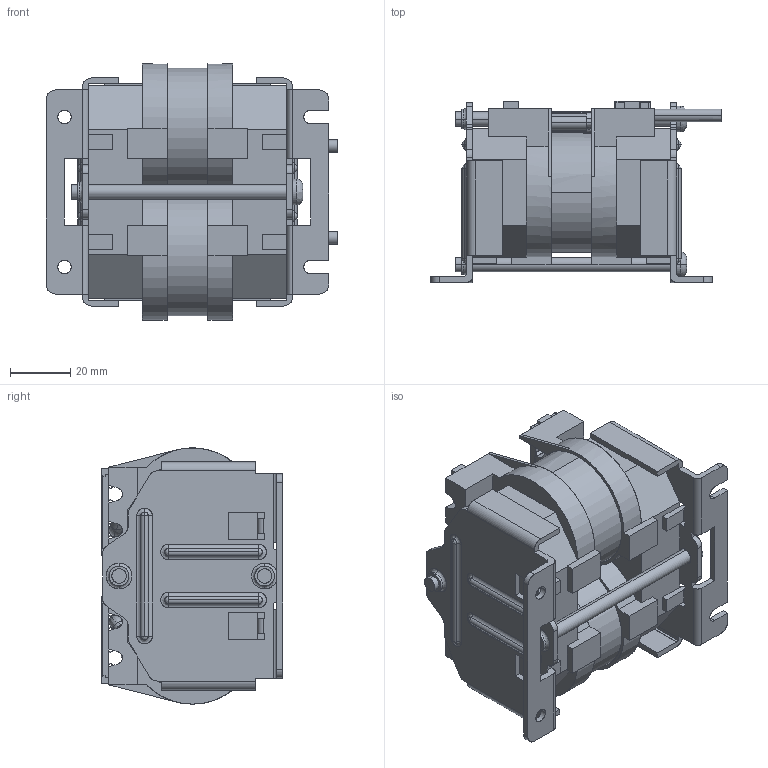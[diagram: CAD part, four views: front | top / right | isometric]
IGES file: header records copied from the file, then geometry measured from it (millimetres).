
Start section: SolidWorks IGES file using analytic representation for surfaces
Bounding box: 97 x 60.4 x 85.4 mm (x, y, z)
Surface area: 77599.1 mm2 (no closed solid volume)
Topology: 0 solids, 0 shells, 799 faces, 9389 edges, 9366 vertices
Faces by surface type: bspline 511, revolution 288
